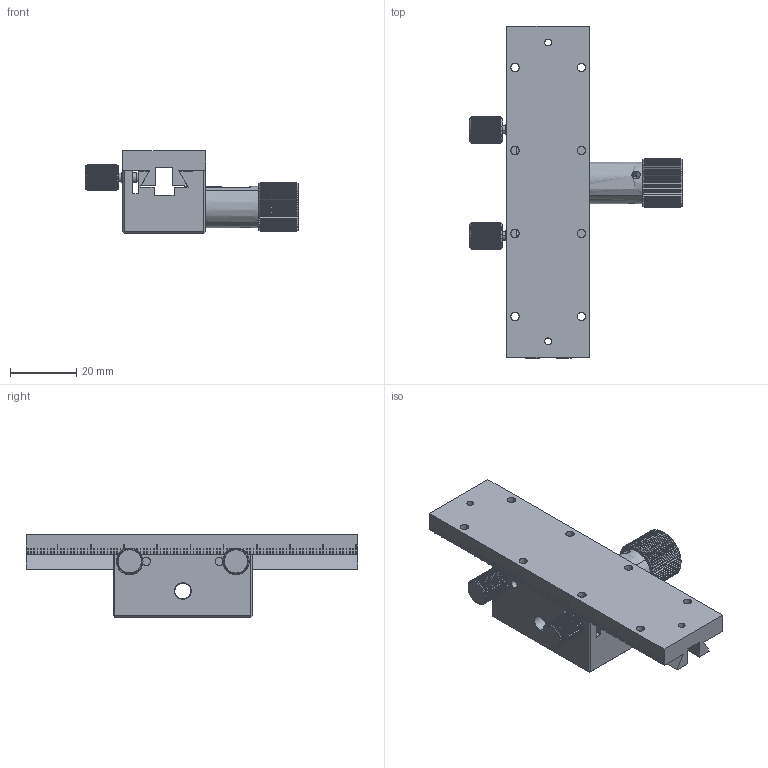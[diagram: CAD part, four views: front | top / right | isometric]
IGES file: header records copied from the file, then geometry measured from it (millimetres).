
Start section: SolidWorks IGES file using analytic representation for surfaces
Bounding box: 64.21 x 100 x 25 mm (x, y, z)
Surface area: 21142 mm2 (no closed solid volume)
Topology: 0 solids, 0 shells, 1259 faces, 9326 edges, 9306 vertices
Faces by surface type: bspline 833, revolution 426
